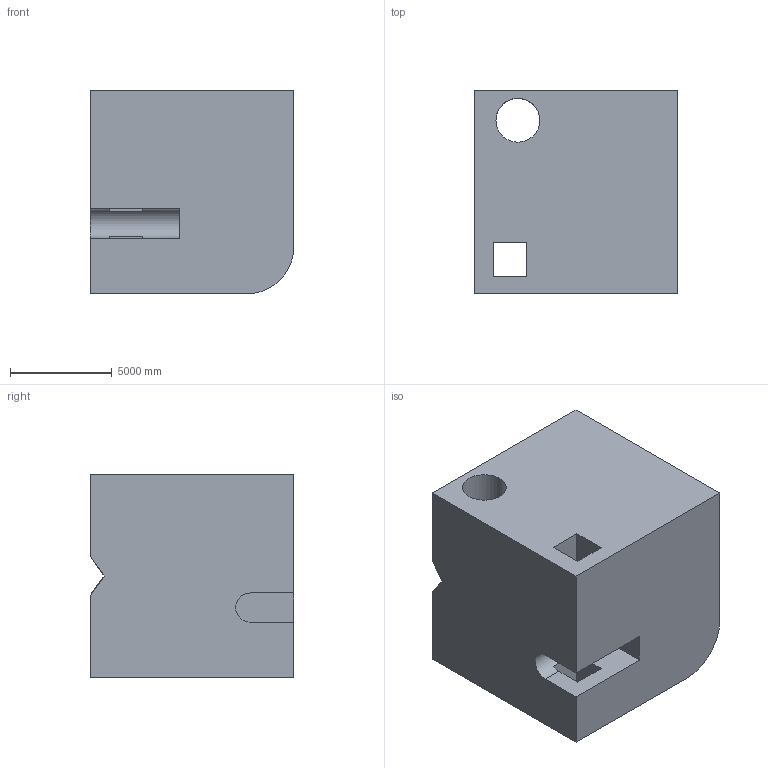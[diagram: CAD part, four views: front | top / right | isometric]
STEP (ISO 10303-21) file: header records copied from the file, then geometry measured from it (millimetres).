
FILE_DESCRIPTION (( 'STEP AP203' ), '1' );
FILE_NAME ('46.STEP', '2022-09-02T13:49:48', ( 'user' ), ( '' ), 'SwSTEP 2.0', 'SolidWorks 2021', '' );
FILE_SCHEMA (( 'CONFIG_CONTROL_DESIGN' ));
Length unit declared in the file: centimetre
Products named in the file (1): 46
Bounding box: 10000 x 10000 x 10000 mm (x, y, z)
Volume: 904942858640.4 mm3; surface area: 718530275.7 mm2
Topology: 1 solids, 1 shells, 24 faces, 75 edges, 50 vertices
Faces by surface type: plane 20, cylinder 4
Entity records: 924 total; most frequent: CARTESIAN_POINT 156, ORIENTED_EDGE 150, DIRECTION 135, EDGE_CURVE 75, LINE 61, VECTOR 61, VERTEX_POINT 50, AXIS2_PLACEMENT_3D 37
